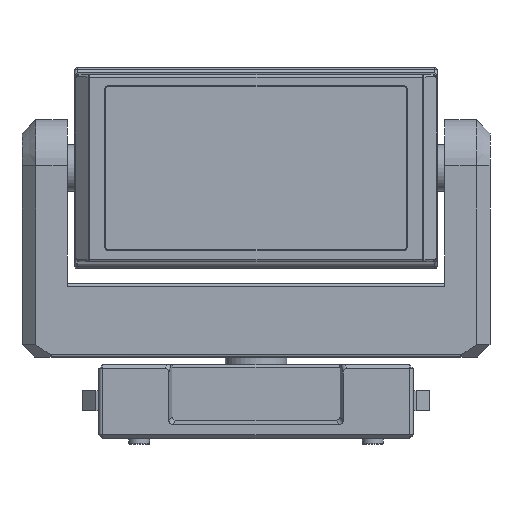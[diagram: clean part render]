
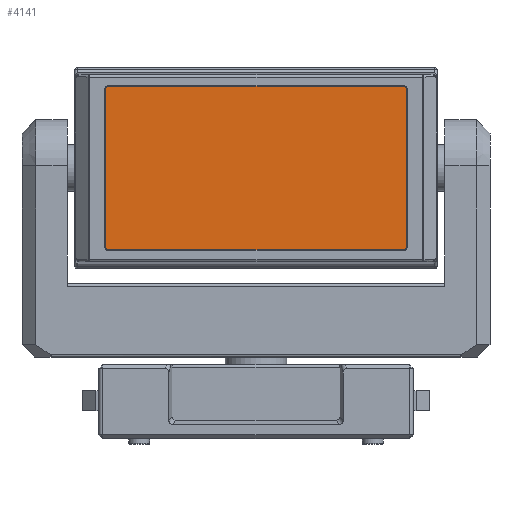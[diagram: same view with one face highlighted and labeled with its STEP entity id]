
A CAD part, front view. The second image highlights one B-rep face of the part: STEP entity #4141.
In plain terms, the highlighted planar face has unit normal (0, -1, 0).
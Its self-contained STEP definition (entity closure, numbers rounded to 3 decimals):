
#365=CIRCLE('',#4611,4.);
#366=CIRCLE('',#4612,4.);
#367=CIRCLE('',#4613,4.);
#368=CIRCLE('',#4614,4.);
#1485=ORIENTED_EDGE('',*,*,#2108,.T.);
#1486=ORIENTED_EDGE('',*,*,#2109,.T.);
#1487=ORIENTED_EDGE('',*,*,#2096,.T.);
#1488=ORIENTED_EDGE('',*,*,#2110,.T.);
#1489=ORIENTED_EDGE('',*,*,#2100,.T.);
#1490=ORIENTED_EDGE('',*,*,#2111,.T.);
#1491=ORIENTED_EDGE('',*,*,#2104,.T.);
#1492=ORIENTED_EDGE('',*,*,#2112,.T.);
#2096=EDGE_CURVE('',#2467,#2470,#2844,.T.);
#2100=EDGE_CURVE('',#2471,#2474,#2848,.T.);
#2104=EDGE_CURVE('',#2475,#2478,#2852,.T.);
#2108=EDGE_CURVE('',#2479,#2482,#2856,.T.);
#2109=EDGE_CURVE('',#2482,#2467,#365,.T.);
#2110=EDGE_CURVE('',#2470,#2471,#366,.T.);
#2111=EDGE_CURVE('',#2474,#2475,#367,.T.);
#2112=EDGE_CURVE('',#2478,#2479,#368,.T.);
#2467=VERTEX_POINT('',#7213);
#2470=VERTEX_POINT('',#7218);
#2471=VERTEX_POINT('',#7222);
#2474=VERTEX_POINT('',#7227);
#2475=VERTEX_POINT('',#7231);
#2478=VERTEX_POINT('',#7236);
#2479=VERTEX_POINT('',#7240);
#2482=VERTEX_POINT('',#7245);
#2844=LINE('',#7219,#3226);
#2848=LINE('',#7228,#3230);
#2852=LINE('',#7237,#3234);
#2856=LINE('',#7246,#3238);
#3226=VECTOR('',#5825,1000.);
#3230=VECTOR('',#5831,1000.);
#3234=VECTOR('',#5837,1000.);
#3238=VECTOR('',#5843,1000.);
#3504=EDGE_LOOP('',(#1485,#1486,#1487,#1488,#1489,#1490,#1491,#1492));
#3774=FACE_BOUND('',#3504,.T.);
#3898=PLANE('',#4610);
#4141=ADVANCED_FACE('',(#3774),#3898,.T.);
#4610=AXIS2_PLACEMENT_3D('',#7247,#5844,#5845);
#4611=AXIS2_PLACEMENT_3D('',#7248,#5846,#5847);
#4612=AXIS2_PLACEMENT_3D('',#7249,#5848,#5849);
#4613=AXIS2_PLACEMENT_3D('',#7250,#5850,#5851);
#4614=AXIS2_PLACEMENT_3D('',#7251,#5852,#5853);
#5825=DIRECTION('',(0.,0.,1.));
#5831=DIRECTION('',(-1.,0.,0.));
#5837=DIRECTION('',(0.,0.,-1.));
#5843=DIRECTION('',(1.,0.,0.));
#5844=DIRECTION('',(0.,-1.,0.));
#5845=DIRECTION('',(0.,0.,-1.));
#5846=DIRECTION('',(0.,-1.,0.));
#5847=DIRECTION('',(0.,0.,-1.));
#5848=DIRECTION('',(0.,-1.,0.));
#5849=DIRECTION('',(0.,0.,-1.));
#5850=DIRECTION('',(0.,-1.,0.));
#5851=DIRECTION('',(0.,0.,-1.));
#5852=DIRECTION('',(0.,-1.,0.));
#5853=DIRECTION('',(0.,0.,-1.));
#7213=CARTESIAN_POINT('',(195.,-69.,-102.));
#7218=CARTESIAN_POINT('',(195.,-69.,102.));
#7219=CARTESIAN_POINT('',(195.,-69.,-106.));
#7222=CARTESIAN_POINT('',(191.,-69.,106.));
#7227=CARTESIAN_POINT('',(-191.,-69.,106.));
#7228=CARTESIAN_POINT('',(195.,-69.,106.));
#7231=CARTESIAN_POINT('',(-195.,-69.,102.));
#7236=CARTESIAN_POINT('',(-195.,-69.,-102.));
#7237=CARTESIAN_POINT('',(-195.,-69.,106.));
#7240=CARTESIAN_POINT('',(-191.,-69.,-106.));
#7245=CARTESIAN_POINT('',(191.,-69.,-106.));
#7246=CARTESIAN_POINT('',(-195.,-69.,-106.));
#7247=CARTESIAN_POINT('',(0.,-69.,0.));
#7248=CARTESIAN_POINT('',(191.,-69.,-102.));
#7249=CARTESIAN_POINT('',(191.,-69.,102.));
#7250=CARTESIAN_POINT('',(-191.,-69.,102.));
#7251=CARTESIAN_POINT('',(-191.,-69.,-102.));
